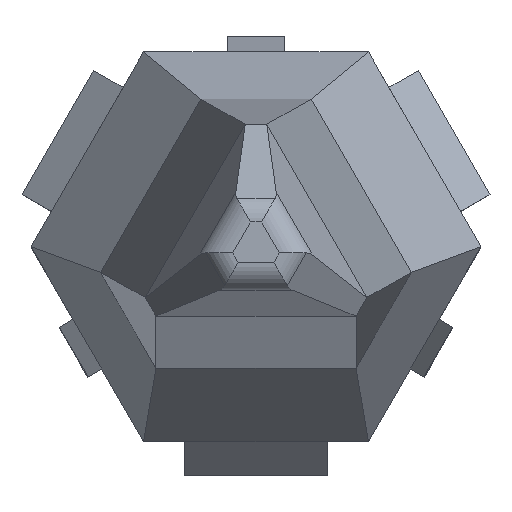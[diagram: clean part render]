
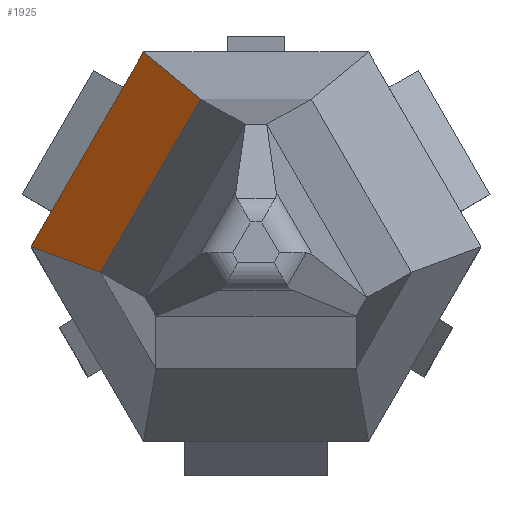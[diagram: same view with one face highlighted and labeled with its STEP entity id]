
A CAD part, top view. The second image highlights one B-rep face of the part: STEP entity #1925.
In plain terms, the highlighted planar face has unit normal (-0.743, 0.429, 0.514).
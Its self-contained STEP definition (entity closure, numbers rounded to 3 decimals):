
#315=DIRECTION('',(-0.5,-0.866,0.));
#316=VECTOR('',#315,3.549);
#317=CARTESIAN_POINT('',(-0.983,2.616,-8.509));
#318=LINE('',#317,#316);
#319=DIRECTION('',(-0.487,0.181,-0.854));
#320=VECTOR('',#319,2.527);
#321=CARTESIAN_POINT('',(-2.757,-0.457,-8.509));
#322=LINE('',#321,#320);
#624=DIRECTION('',(0.5,0.866,0.));
#625=VECTOR('',#624,3.989);
#626=CARTESIAN_POINT('',(-3.989,0.,-10.668));
#627=LINE('',#626,#625);
#774=DIRECTION('',(-0.4,0.332,-0.854));
#775=VECTOR('',#774,2.527);
#776=CARTESIAN_POINT('',(-0.983,2.616,-8.509));
#777=LINE('',#776,#775);
#1400=CARTESIAN_POINT('',(-0.983,2.616,-8.509));
#1401=CARTESIAN_POINT('',(-2.757,-0.457,-8.509));
#1402=VERTEX_POINT('',#1400);
#1403=VERTEX_POINT('',#1401);
#1448=CARTESIAN_POINT('',(-3.989,0.,-10.668));
#1449=CARTESIAN_POINT('',(-1.994,3.454,-10.668));
#1450=VERTEX_POINT('',#1448);
#1451=VERTEX_POINT('',#1449);
#1911=CARTESIAN_POINT('',(0.272,7.379,-10.668));
#1912=DIRECTION('',(0.743,-0.429,-0.514));
#1913=DIRECTION('',(0.446,-0.257,0.857));
#1914=AXIS2_PLACEMENT_3D('',#1911,#1912,#1913);
#1915=PLANE('',#1914);
#1916=ORIENTED_EDGE('',*,*,#1901,.T.);
#1918=ORIENTED_EDGE('',*,*,#1917,.T.);
#1920=ORIENTED_EDGE('',*,*,#1919,.T.);
#1922=ORIENTED_EDGE('',*,*,#1921,.F.);
#1923=EDGE_LOOP('',(#1916,#1918,#1920,#1922));
#1924=FACE_OUTER_BOUND('',#1923,.F.);
#1925=ADVANCED_FACE('',(#1924),#1915,.F.);
#1901=EDGE_CURVE('',#1402,#1403,#318,.T.);
#1917=EDGE_CURVE('',#1403,#1450,#322,.T.);
#1919=EDGE_CURVE('',#1450,#1451,#627,.T.);
#1921=EDGE_CURVE('',#1402,#1451,#777,.T.);
